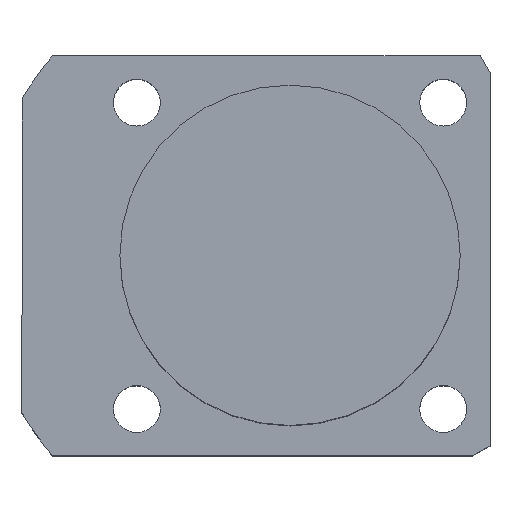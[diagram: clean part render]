
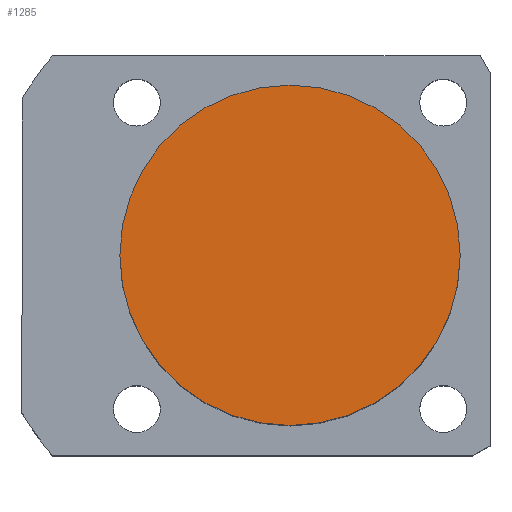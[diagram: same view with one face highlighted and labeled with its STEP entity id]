
A CAD part, top view. The second image highlights one B-rep face of the part: STEP entity #1285.
In plain terms, the highlighted planar face has unit normal (0, 0, 1).
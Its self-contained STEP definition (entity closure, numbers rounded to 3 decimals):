
#24 = DIRECTION ( 'NONE',  ( 1., 0., 0. ) ) ;
#751 = AXIS2_PLACEMENT_3D ( 'NONE', #1652, #980, #1820 ) ;
#803 = VERTEX_POINT ( 'NONE', #1336 ) ;
#809 = CARTESIAN_POINT ( 'NONE',  ( 0., 0., 46.5 ) ) ;
#829 = CARTESIAN_POINT ( 'NONE',  ( 0., 0., 46.5 ) ) ;
#906 = ORIENTED_EDGE ( 'NONE', *, *, #1759, .T. ) ;
#980 = DIRECTION ( 'NONE',  ( 0., 0., 1. ) ) ;
#1091 = CIRCLE ( 'NONE', #2070, 20. ) ;
#1225 = EDGE_LOOP ( 'NONE', ( #906, #2129 ) ) ;
#1285 = ADVANCED_FACE ( 'NONE', ( #1931 ), #1987, .T. ) ;
#1308 = EDGE_CURVE ( 'NONE', #803, #1659, #1091, .T. ) ;
#1330 = DIRECTION ( 'NONE',  ( 1., 0., 0. ) ) ;
#1336 = CARTESIAN_POINT ( 'NONE',  ( 20., 0., 46.5 ) ) ;
#1468 = AXIS2_PLACEMENT_3D ( 'NONE', #829, #2000, #24 ) ;
#1652 = CARTESIAN_POINT ( 'NONE',  ( 0., 0., 46.5 ) ) ;
#1659 = VERTEX_POINT ( 'NONE', #2115 ) ;
#1660 = DIRECTION ( 'NONE',  ( 0., 0., 1. ) ) ;
#1717 = CIRCLE ( 'NONE', #751, 20. ) ;
#1759 = EDGE_CURVE ( 'NONE', #1659, #803, #1717, .T. ) ;
#1820 = DIRECTION ( 'NONE',  ( 1., 0., 0. ) ) ;
#1931 = FACE_OUTER_BOUND ( 'NONE', #1225, .T. ) ;
#1987 = PLANE ( 'NONE',  #1468 ) ;
#2000 = DIRECTION ( 'NONE',  ( 0., 0., 1. ) ) ;
#2070 = AXIS2_PLACEMENT_3D ( 'NONE', #809, #1660, #1330 ) ;
#2115 = CARTESIAN_POINT ( 'NONE',  ( -20., 0., 46.5 ) ) ;
#2129 = ORIENTED_EDGE ( 'NONE', *, *, #1308, .T. ) ;
